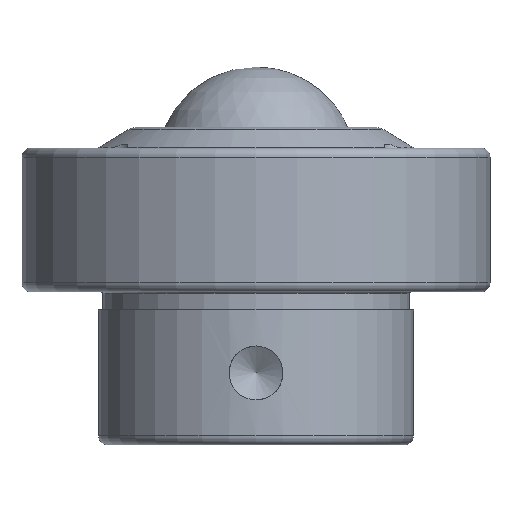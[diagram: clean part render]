
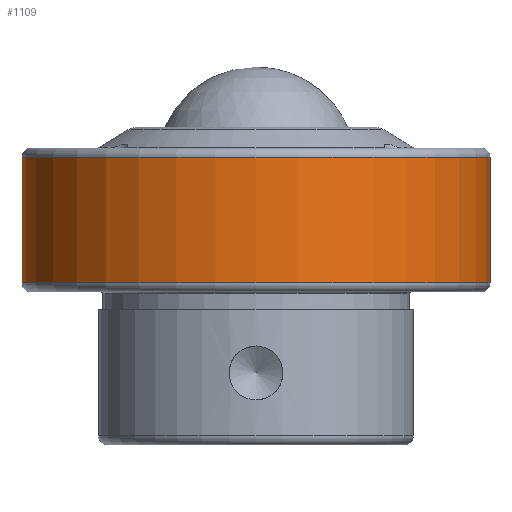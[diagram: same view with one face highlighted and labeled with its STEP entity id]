
A CAD part, front view. The second image highlights one B-rep face of the part: STEP entity #1109.
In plain terms, the highlighted cylindrical face has radius 26 mm (diameter 52 mm), a full revolution.
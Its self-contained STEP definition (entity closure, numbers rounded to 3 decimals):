
#41=CYLINDRICAL_SURFACE('',#1211,26.);
#329=FACE_BOUND('',#495,.T.);
#401=FACE_OUTER_BOUND('',#494,.T.);
#494=EDGE_LOOP('',(#1010));
#495=EDGE_LOOP('',(#1011));
#552=CIRCLE('',#1210,26.);
#553=CIRCLE('',#1212,26.);
#641=VERTEX_POINT('',#1903);
#642=VERTEX_POINT('',#1906);
#770=EDGE_CURVE('',#641,#641,#552,.T.);
#771=EDGE_CURVE('',#642,#642,#553,.T.);
#1010=ORIENTED_EDGE('',*,*,#771,.F.);
#1011=ORIENTED_EDGE('',*,*,#770,.T.);
#1109=ADVANCED_FACE('',(#401,#329),#41,.T.);
#1210=AXIS2_PLACEMENT_3D('',#1904,#1494,#1495);
#1211=AXIS2_PLACEMENT_3D('',#1905,#1496,#1497);
#1212=AXIS2_PLACEMENT_3D('',#1907,#1498,#1499);
#1494=DIRECTION('center_axis',(0.,0.,1.));
#1495=DIRECTION('ref_axis',(0.,-1.,0.));
#1496=DIRECTION('center_axis',(0.,0.,1.));
#1497=DIRECTION('ref_axis',(0.,-1.,0.));
#1498=DIRECTION('center_axis',(0.,0.,1.));
#1499=DIRECTION('ref_axis',(0.,-1.,0.));
#1903=CARTESIAN_POINT('',(0.,-26.,1.));
#1904=CARTESIAN_POINT('Origin',(0.,0.,1.));
#1905=CARTESIAN_POINT('Origin',(0.,0.,8.));
#1906=CARTESIAN_POINT('',(0.,-26.,15.));
#1907=CARTESIAN_POINT('Origin',(0.,0.,15.));
